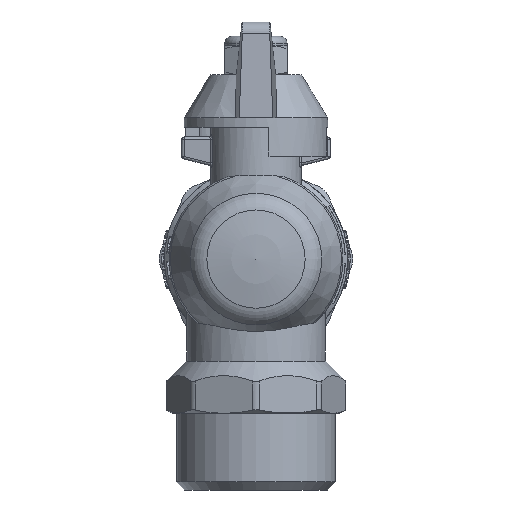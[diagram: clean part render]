
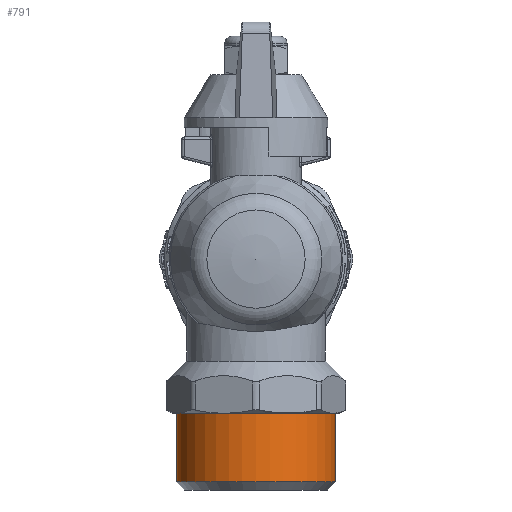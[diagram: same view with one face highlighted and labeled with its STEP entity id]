
A CAD part, front view. The second image highlights one B-rep face of the part: STEP entity #791.
In plain terms, the highlighted cylindrical face has radius 16.625 mm (diameter 33.249 mm), a full revolution.
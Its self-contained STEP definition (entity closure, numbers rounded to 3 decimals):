
#791=ADVANCED_FACE('',(#6275,#6277),#6279,.T.);
#6275=FACE_OUTER_BOUND('',#6276,.T.);
#6276=EDGE_LOOP('',(#11488));
#6277=FACE_OUTER_BOUND('',#6278,.T.);
#6278=EDGE_LOOP('',(#11489));
#6279=CYLINDRICAL_SURFACE('',#6280,16.625);
#6280=AXIS2_PLACEMENT_3D('',#6281,#6282,#6283);
#6281=CARTESIAN_POINT('',(0.,0.,-31.2));
#6282=DIRECTION('',(0.,0.,-1.));
#6283=DIRECTION('',(0.,1.,0.));
#11488=ORIENTED_EDGE('',*,*,#13635,.T.);
#11489=ORIENTED_EDGE('',*,*,#13643,.F.);
#13635=EDGE_CURVE('',#16959,#16959,#16960,.T.);
#13643=EDGE_CURVE('',#16969,#16969,#16970,.T.);
#16959=VERTEX_POINT('',#34336);
#16960=CIRCLE('',#34337,16.625);
#16969=VERTEX_POINT('',#34364);
#16970=CIRCLE('',#34365,16.625);
#34336=CARTESIAN_POINT('',(0.,16.625,-32.2));
#34337=AXIS2_PLACEMENT_3D('',#34338,#34339,#34340);
#34338=CARTESIAN_POINT('',(0.,0.,-32.2));
#34339=DIRECTION('',(0.,0.,-1.));
#34340=DIRECTION('',(0.,1.,0.));
#34364=CARTESIAN_POINT('',(0.,16.625,-46.5));
#34365=AXIS2_PLACEMENT_3D('',#34366,#34367,#34368);
#34366=CARTESIAN_POINT('',(0.,0.,-46.5));
#34367=DIRECTION('',(0.,0.,-1.));
#34368=DIRECTION('',(0.,1.,0.));
